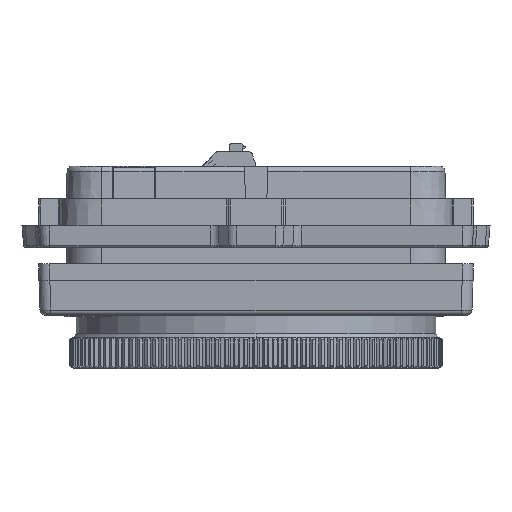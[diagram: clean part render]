
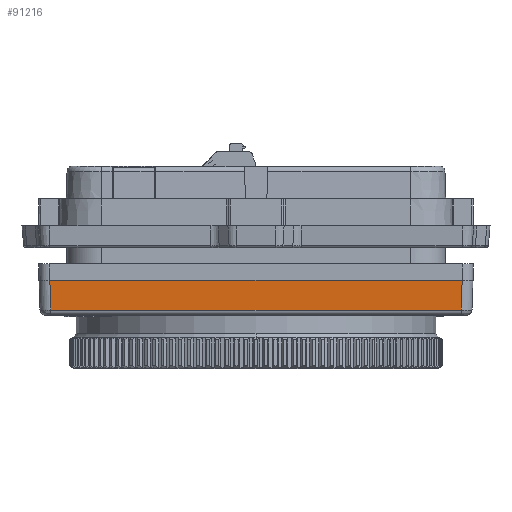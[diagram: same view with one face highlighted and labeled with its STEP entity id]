
A CAD part, left-side view. The second image highlights one B-rep face of the part: STEP entity #91216.
In plain terms, the highlighted planar face has unit normal (-0.999, 0, -0.035).
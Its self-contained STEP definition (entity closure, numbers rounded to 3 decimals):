
#42722=DIRECTION('',(0.035,-0.035,-0.999));
#42723=VECTOR('',#42722,5.506);
#42724=CARTESIAN_POINT('',(-40.,38.001,0.));
#42725=LINE('',#42724,#42723);
#42729=DIRECTION('',(-0.035,-0.035,0.999));
#42730=VECTOR('',#42729,5.506);
#42731=CARTESIAN_POINT('',(-39.808,-37.809,
-5.499));
#42732=LINE('',#42731,#42730);
#42736=DIRECTION('',(0.,1.,0.));
#42737=VECTOR('',#42736,75.618);
#42738=CARTESIAN_POINT('',(-39.808,-37.809,
-5.499));
#42739=LINE('',#42738,#42737);
#42750=CARTESIAN_POINT('',(-39.808,37.809,
-5.499));
#43122=DIRECTION('',(0.,-1.,0.));
#43123=VECTOR('',#43122,76.001);
#43124=CARTESIAN_POINT('',(-40.,38.001,0.));
#43125=LINE('',#43124,#43123);
#75059=VERTEX_POINT('',#42750);
#75060=CARTESIAN_POINT('',(-40.,38.001,0.));
#75061=VERTEX_POINT('',#75060);
#75064=CARTESIAN_POINT('',(-39.808,-37.809,
-5.499));
#75065=VERTEX_POINT('',#75064);
#75068=CARTESIAN_POINT('',(-40.,-38.001,0.));
#75069=VERTEX_POINT('',#75068);
#91202=CARTESIAN_POINT('',(-40.,40.,0.));
#91203=DIRECTION('',(-0.999,0.,-0.035));
#91204=DIRECTION('',(-0.035,0.,0.999));
#91205=AXIS2_PLACEMENT_3D('',#91202,#91203,#91204);
#91206=PLANE('',#91205);
#91208=ORIENTED_EDGE('',*,*,#91207,.T.);
#91210=ORIENTED_EDGE('',*,*,#91209,.F.);
#91212=ORIENTED_EDGE('',*,*,#91211,.T.);
#91213=ORIENTED_EDGE('',*,*,#91186,.F.);
#91214=EDGE_LOOP('',(#91208,#91210,#91212,#91213));
#91215=FACE_OUTER_BOUND('',#91214,.F.);
#91186=EDGE_CURVE('',#75065,#75069,#42732,.T.);
#91207=EDGE_CURVE('',#75065,#75059,#42739,.T.);
#91209=EDGE_CURVE('',#75061,#75059,#42725,.T.);
#91211=EDGE_CURVE('',#75061,#75069,#43125,.T.);
#91216=ADVANCED_FACE('',(#91215),#91206,.T.);
